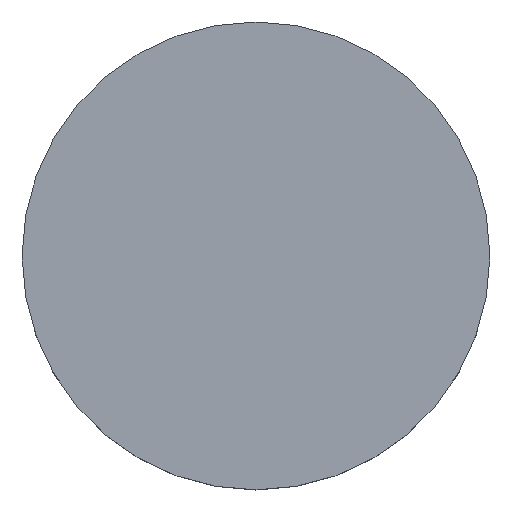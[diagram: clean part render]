
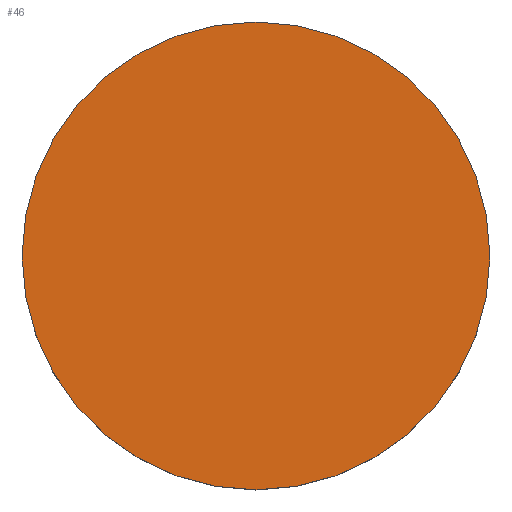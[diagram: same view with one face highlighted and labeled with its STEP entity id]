
A CAD part, top view. The second image highlights one B-rep face of the part: STEP entity #46.
In plain terms, the highlighted planar face has unit normal (0, 0, 1).
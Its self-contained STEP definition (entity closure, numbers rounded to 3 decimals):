
#18=PLANE('',#52);
#24=FACE_OUTER_BOUND('',#28,.T.);
#28=EDGE_LOOP('',(#42));
#30=CIRCLE('',#51,5.);
#32=VERTEX_POINT('',#67);
#35=EDGE_CURVE('',#32,#32,#30,.T.);
#42=ORIENTED_EDGE('',*,*,#35,.T.);
#46=ADVANCED_FACE('',(#24),#18,.T.);
#51=AXIS2_PLACEMENT_3D('',#68,#59,#60);
#52=AXIS2_PLACEMENT_3D('',#194,#61,#62);
#59=DIRECTION('center_axis',(0.,0.,
1.));
#60=DIRECTION('ref_axis',(-1.,0.,0.));
#61=DIRECTION('center_axis',(0.,0.,1.));
#62=DIRECTION('ref_axis',(-0.707,-0.707,0.));
#67=CARTESIAN_POINT('',(5.,0.,-5.806));
#68=CARTESIAN_POINT('Origin',(0.,0.,
-5.806));
#194=CARTESIAN_POINT('Origin',(0.,10.404,-5.806));
